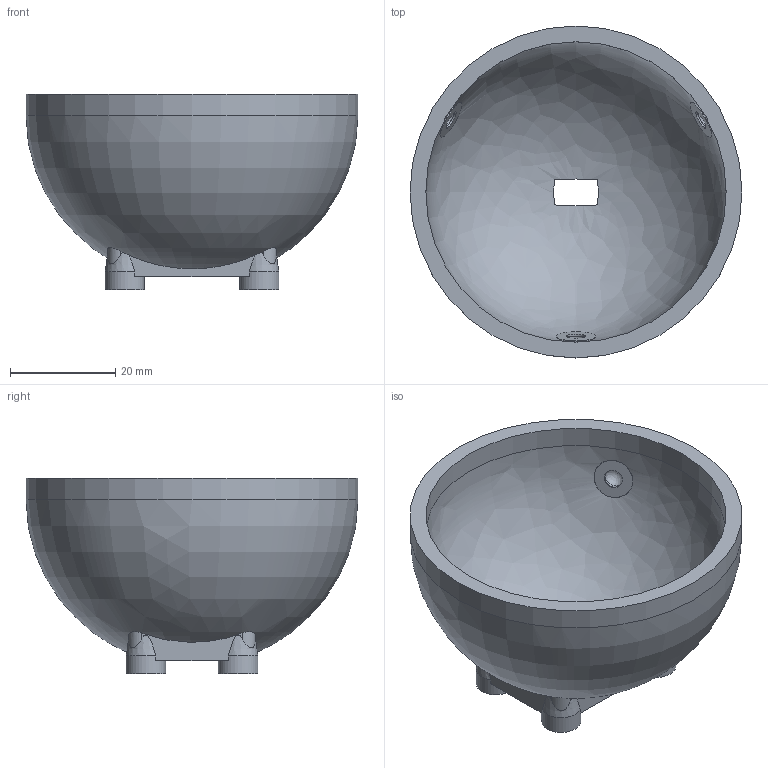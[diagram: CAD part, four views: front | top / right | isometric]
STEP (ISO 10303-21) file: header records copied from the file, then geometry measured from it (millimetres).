
FILE_DESCRIPTION(('Open CASCADE Model'),'2;1');
FILE_NAME('Open CASCADE Shape Model','2026-05-31T19:43:59',('Author'),( 'Open CASCADE'),'Open CASCADE STEP processor 7.6','Open CASCADE 7.6' ,'Unknown');
FILE_SCHEMA(('AP242_MANAGED_MODEL_BASED_3D_ENGINEERING_MIM_LF. {1 0 10303 442 1 1 4 }'));
Length unit declared in the file: millimetre
Products named in the file (1): Open CASCADE STEP translator 7.6 10
Bounding box: 63 x 63 x 37.1 mm (x, y, z)
Volume: 20243.6 mm3; surface area: 14327.9 mm2
Topology: 1 solids, 1 shells, 69 faces, 165 edges, 109 vertices
Faces by surface type: cylinder 27, plane 26, revolution 8, bspline 4, cone 4
Full cylindrical faces by diameter (mm): 3.5 x4, 3.57 x3, 3.572 x3, 7.5 x4, 7.57 x3, 57 x1, 63 x1
Entity records: 9286 total; most frequent: CARTESIAN_POINT 6091, DIRECTION 557, ORIENTED_EDGE 324, PCURVE 324, DEFINITIONAL_REPRESENTATION 324, LINE 251, VECTOR 251, EDGE_CURVE 162
